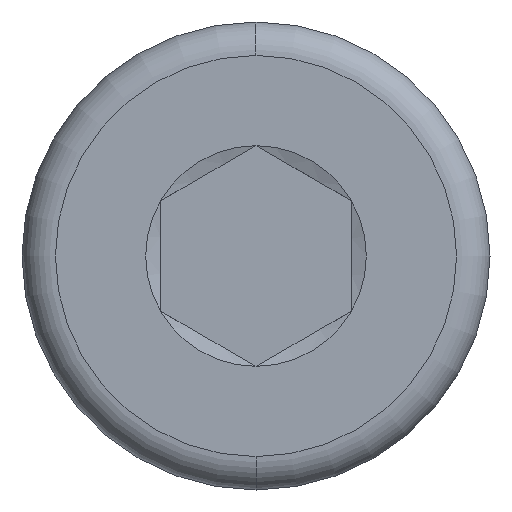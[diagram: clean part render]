
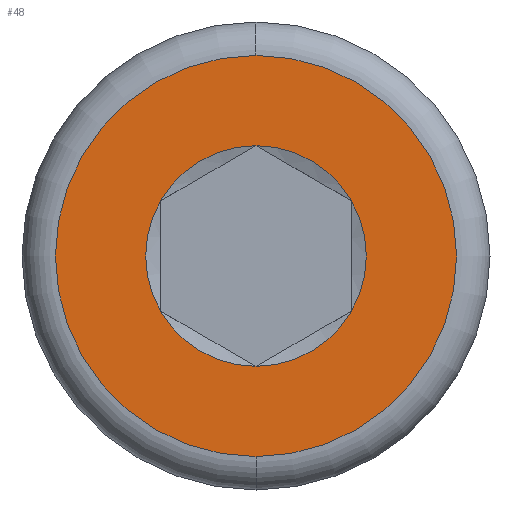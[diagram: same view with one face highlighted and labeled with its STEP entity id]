
A CAD part, left-side view. The second image highlights one B-rep face of the part: STEP entity #48.
In plain terms, the highlighted planar face has unit normal (-1, 0, 0).
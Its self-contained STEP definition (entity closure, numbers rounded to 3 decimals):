
#4 = ORIENTED_EDGE ( 'NONE', *, *, #82, .T. ) ;
#9 = CARTESIAN_POINT ( 'NONE',  ( 0., -2., -1.155 ) ) ;
#16 = EDGE_CURVE ( 'NONE', #366, #649, #52, .T. ) ;
#20 = AXIS2_PLACEMENT_3D ( 'NONE', #474, #317, #417 ) ;
#21 = CARTESIAN_POINT ( 'NONE',  ( 0., 0., 0. ) ) ;
#31 = CIRCLE ( 'NONE', #489, 2.309 ) ;
#34 = DIRECTION ( 'NONE',  ( 0., 0., -1. ) ) ;
#48 = ADVANCED_FACE ( 'NONE', ( #197, #514 ), #205, .T. ) ;
#52 = CIRCLE ( 'NONE', #476, 4.2 ) ;
#54 = CARTESIAN_POINT ( 'NONE',  ( 0., 2., 1.155 ) ) ;
#56 = DIRECTION ( 'NONE',  ( 0., 0., -1. ) ) ;
#72 = ORIENTED_EDGE ( 'NONE', *, *, #213, .F. ) ;
#76 = AXIS2_PLACEMENT_3D ( 'NONE', #152, #362, #633 ) ;
#82 = EDGE_CURVE ( 'NONE', #437, #668, #208, .T. ) ;
#89 = CIRCLE ( 'NONE', #76, 2.309 ) ;
#91 = DIRECTION ( 'NONE',  ( 1., 0., 0. ) ) ;
#94 = DIRECTION ( 'NONE',  ( 1., 0., 0. ) ) ;
#108 = DIRECTION ( 'NONE',  ( 0., 0., -1. ) ) ;
#110 = DIRECTION ( 'NONE',  ( 0., 0., 1. ) ) ;
#116 = DIRECTION ( 'NONE',  ( 0., 0., -1. ) ) ;
#121 = EDGE_LOOP ( 'NONE', ( #72, #159 ) ) ;
#134 = ORIENTED_EDGE ( 'NONE', *, *, #592, .T. ) ;
#148 = DIRECTION ( 'NONE',  ( 1., 0., 0. ) ) ;
#152 = CARTESIAN_POINT ( 'NONE',  ( 0., 0., 0. ) ) ;
#159 = ORIENTED_EDGE ( 'NONE', *, *, #16, .F. ) ;
#163 = AXIS2_PLACEMENT_3D ( 'NONE', #367, #148, #56 ) ;
#172 = CIRCLE ( 'NONE', #184, 2.309 ) ;
#182 = DIRECTION ( 'NONE',  ( 1., 0., 0. ) ) ;
#183 = VERTEX_POINT ( 'NONE', #9 ) ;
#184 = AXIS2_PLACEMENT_3D ( 'NONE', #372, #364, #108 ) ;
#192 = DIRECTION ( 'NONE',  ( 0., 0., -1. ) ) ;
#197 = FACE_BOUND ( 'NONE', #388, .T. ) ;
#198 = AXIS2_PLACEMENT_3D ( 'NONE', #502, #454, #497 ) ;
#205 = PLANE ( 'NONE',  #382 ) ;
#208 = CIRCLE ( 'NONE', #20, 2.309 ) ;
#213 = EDGE_CURVE ( 'NONE', #649, #366, #585, .T. ) ;
#249 = VERTEX_POINT ( 'NONE', #648 ) ;
#259 = CARTESIAN_POINT ( 'NONE',  ( 0., 0., -4.2 ) ) ;
#317 = DIRECTION ( 'NONE',  ( 1., 0., 0. ) ) ;
#328 = ORIENTED_EDGE ( 'NONE', *, *, #637, .T. ) ;
#348 = CARTESIAN_POINT ( 'NONE',  ( 0., 0., 0. ) ) ;
#355 = CARTESIAN_POINT ( 'NONE',  ( 0., 2., -1.155 ) ) ;
#359 = CARTESIAN_POINT ( 'NONE',  ( 0., 0., -2.309 ) ) ;
#362 = DIRECTION ( 'NONE',  ( 1., 0., 0. ) ) ;
#364 = DIRECTION ( 'NONE',  ( 1., 0., 0. ) ) ;
#366 = VERTEX_POINT ( 'NONE', #551 ) ;
#367 = CARTESIAN_POINT ( 'NONE',  ( 0., 0., 0. ) ) ;
#372 = CARTESIAN_POINT ( 'NONE',  ( 0., 0., 0. ) ) ;
#382 = AXIS2_PLACEMENT_3D ( 'NONE', #348, #626, #110 ) ;
#388 = EDGE_LOOP ( 'NONE', ( #554, #650, #584, #134, #328, #4 ) ) ;
#403 = EDGE_CURVE ( 'NONE', #249, #623, #619, .T. ) ;
#417 = DIRECTION ( 'NONE',  ( 0., 0., -1. ) ) ;
#437 = VERTEX_POINT ( 'NONE', #355 ) ;
#447 = VERTEX_POINT ( 'NONE', #359 ) ;
#454 = DIRECTION ( 'NONE',  ( 1., 0., 0. ) ) ;
#469 = CARTESIAN_POINT ( 'NONE',  ( 0., -2., 1.155 ) ) ;
#474 = CARTESIAN_POINT ( 'NONE',  ( 0., 0., 0. ) ) ;
#476 = AXIS2_PLACEMENT_3D ( 'NONE', #552, #94, #192 ) ;
#489 = AXIS2_PLACEMENT_3D ( 'NONE', #557, #91, #34 ) ;
#497 = DIRECTION ( 'NONE',  ( 0., 0., -1. ) ) ;
#502 = CARTESIAN_POINT ( 'NONE',  ( 0., 0., 0. ) ) ;
#514 = FACE_OUTER_BOUND ( 'NONE', #121, .T. ) ;
#521 = EDGE_CURVE ( 'NONE', #668, #249, #31, .T. ) ;
#548 = CIRCLE ( 'NONE', #163, 2.309 ) ;
#551 = CARTESIAN_POINT ( 'NONE',  ( 0., 0., 4.2 ) ) ;
#552 = CARTESIAN_POINT ( 'NONE',  ( 0., 0., 0. ) ) ;
#554 = ORIENTED_EDGE ( 'NONE', *, *, #521, .T. ) ;
#555 = AXIS2_PLACEMENT_3D ( 'NONE', #21, #182, #116 ) ;
#557 = CARTESIAN_POINT ( 'NONE',  ( 0., 0., 0. ) ) ;
#571 = EDGE_CURVE ( 'NONE', #623, #183, #89, .T. ) ;
#584 = ORIENTED_EDGE ( 'NONE', *, *, #571, .T. ) ;
#585 = CIRCLE ( 'NONE', #555, 4.2 ) ;
#592 = EDGE_CURVE ( 'NONE', #183, #447, #172, .T. ) ;
#619 = CIRCLE ( 'NONE', #198, 2.309 ) ;
#623 = VERTEX_POINT ( 'NONE', #469 ) ;
#626 = DIRECTION ( 'NONE',  ( -1., 0., 0. ) ) ;
#633 = DIRECTION ( 'NONE',  ( 0., 0., -1. ) ) ;
#637 = EDGE_CURVE ( 'NONE', #447, #437, #548, .T. ) ;
#648 = CARTESIAN_POINT ( 'NONE',  ( 0., 0., 2.309 ) ) ;
#649 = VERTEX_POINT ( 'NONE', #259 ) ;
#650 = ORIENTED_EDGE ( 'NONE', *, *, #403, .T. ) ;
#668 = VERTEX_POINT ( 'NONE', #54 ) ;
